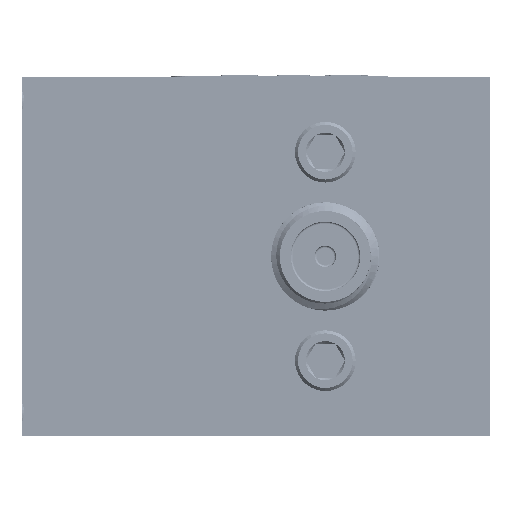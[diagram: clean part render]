
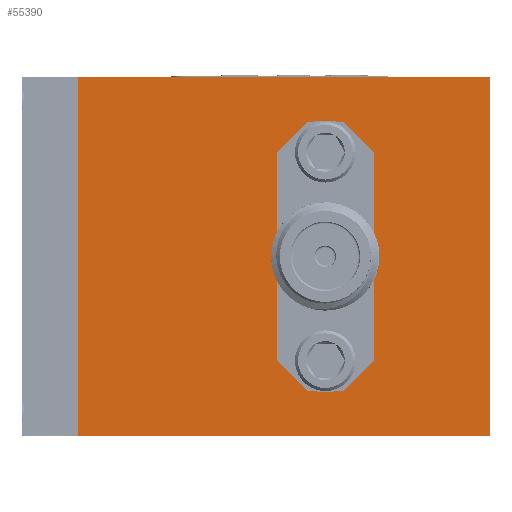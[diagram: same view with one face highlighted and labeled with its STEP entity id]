
A CAD part, left-side view. The second image highlights one B-rep face of the part: STEP entity #55390.
In plain terms, the highlighted planar face has unit normal (-1, 0, 0).
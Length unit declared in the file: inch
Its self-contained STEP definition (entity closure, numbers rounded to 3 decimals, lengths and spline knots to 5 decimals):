
#91 = VERTEX_POINT ( 'NONE', #34636 ) ;
#3012 = VERTEX_POINT ( 'NONE', #28654 ) ;
#3623 = ORIENTED_EDGE ( 'NONE', *, *, #4126, .F. ) ;
#4126 = EDGE_CURVE ( 'NONE', #91, #63411, #23038, .T. ) ;
#5265 = CARTESIAN_POINT ( 'NONE',  ( -1.33, 0., 0.415 ) ) ;
#5842 = DIRECTION ( 'NONE',  ( 0., 0., 1. ) ) ;
#6759 = DIRECTION ( 'NONE',  ( -1., 0., 0. ) ) ;
#7283 = VERTEX_POINT ( 'NONE', #50108 ) ;
#7615 = LINE ( 'NONE', #52917, #57972 ) ;
#9871 = ORIENTED_EDGE ( 'NONE', *, *, #49077, .F. ) ;
#11214 = EDGE_CURVE ( 'NONE', #86619, #49815, #48194, .T. ) ;
#11885 = CARTESIAN_POINT ( 'NONE',  ( -1.33, 0.38, -0.2405 ) ) ;
#12300 = CARTESIAN_POINT ( 'NONE',  ( -1.33, 0., -0.415 ) ) ;
#12674 = DIRECTION ( 'NONE',  ( 1., 0., 0. ) ) ;
#12706 = DIRECTION ( 'NONE',  ( -1., 0., 0. ) ) ;
#14330 = VERTEX_POINT ( 'NONE', #38651 ) ;
#14482 = CARTESIAN_POINT ( 'NONE',  ( -1.33, 0.95, 0.415 ) ) ;
#15213 = EDGE_CURVE ( 'NONE', #14330, #3012, #19303, .T. ) ;
#15796 = CIRCLE ( 'NONE', #37570, 0.035 ) ;
#16166 = VERTEX_POINT ( 'NONE', #51737 ) ;
#17982 = AXIS2_PLACEMENT_3D ( 'NONE', #80821, #6759, #72563 ) ;
#18474 = DIRECTION ( 'NONE',  ( 0., 0., 1. ) ) ;
#19303 = CIRCLE ( 'NONE', #76721, 0.085 ) ;
#20076 = EDGE_CURVE ( 'NONE', #16166, #65373, #37398, .T. ) ;
#23038 = CIRCLE ( 'NONE', #64856, 0.035 ) ;
#25810 = ORIENTED_EDGE ( 'NONE', *, *, #92324, .T. ) ;
#26307 = CIRCLE ( 'NONE', #51213, 0.035 ) ;
#28654 = CARTESIAN_POINT ( 'NONE',  ( -1.33, 0.38, 0.085 ) ) ;
#29306 = EDGE_CURVE ( 'NONE', #65373, #16166, #26307, .T. ) ;
#29644 = CARTESIAN_POINT ( 'NONE',  ( -1.33, 0.95, -0.415 ) ) ;
#31918 = CIRCLE ( 'NONE', #17982, 0.085 ) ;
#32973 = EDGE_LOOP ( 'NONE', ( #45007, #86147 ) ) ;
#33459 = VECTOR ( 'NONE', #18474, 39.37008 ) ;
#33556 = FACE_BOUND ( 'NONE', #66567, .T. ) ;
#33977 = CARTESIAN_POINT ( 'NONE',  ( -1.33, 0.95, -0.415 ) ) ;
#34636 = CARTESIAN_POINT ( 'NONE',  ( -1.33, 0.38, -0.2055 ) ) ;
#35781 = EDGE_CURVE ( 'NONE', #86619, #7283, #58932, .T. ) ;
#37398 = CIRCLE ( 'NONE', #48320, 0.035 ) ;
#37570 = AXIS2_PLACEMENT_3D ( 'NONE', #50937, #81152, #94292 ) ;
#38651 = CARTESIAN_POINT ( 'NONE',  ( -1.33, 0.38, -0.085 ) ) ;
#41373 = CARTESIAN_POINT ( 'NONE',  ( -1.33, 0.38, 0.2405 ) ) ;
#41956 = DIRECTION ( 'NONE',  ( 0., 0., 1. ) ) ;
#42822 = ORIENTED_EDGE ( 'NONE', *, *, #11214, .F. ) ;
#43075 = ORIENTED_EDGE ( 'NONE', *, *, #35781, .T. ) ;
#45007 = ORIENTED_EDGE ( 'NONE', *, *, #62528, .F. ) ;
#48194 = LINE ( 'NONE', #33977, #33459 ) ;
#48230 = CARTESIAN_POINT ( 'NONE',  ( -1.33, 0.95, -0.415 ) ) ;
#48320 = AXIS2_PLACEMENT_3D ( 'NONE', #41373, #63844, #93013 ) ;
#49077 = EDGE_CURVE ( 'NONE', #49815, #49701, #7615, .T. ) ;
#49301 = LINE ( 'NONE', #12300, #94073 ) ;
#49361 = DIRECTION ( 'NONE',  ( -1., 0., 0. ) ) ;
#49658 = FACE_OUTER_BOUND ( 'NONE', #94390, .T. ) ;
#49701 = VERTEX_POINT ( 'NONE', #5265 ) ;
#49815 = VERTEX_POINT ( 'NONE', #14482 ) ;
#49858 = ORIENTED_EDGE ( 'NONE', *, *, #20076, .F. ) ;
#50108 = CARTESIAN_POINT ( 'NONE',  ( -1.33, 0., -0.415 ) ) ;
#50937 = CARTESIAN_POINT ( 'NONE',  ( -1.33, 0.38, -0.2405 ) ) ;
#51213 = AXIS2_PLACEMENT_3D ( 'NONE', #83800, #76574, #69257 ) ;
#51737 = CARTESIAN_POINT ( 'NONE',  ( -1.33, 0.38, 0.2755 ) ) ;
#52917 = CARTESIAN_POINT ( 'NONE',  ( -1.33, 0.95, 0.415 ) ) ;
#53091 = AXIS2_PLACEMENT_3D ( 'NONE', #48230, #12674, #56492 ) ;
#55030 = PLANE ( 'NONE',  #53091 ) ;
#55390 = ADVANCED_FACE ( 'NONE', ( #62848, #92542, #33556, #49658 ), #55030, .F. ) ;
#56492 = DIRECTION ( 'NONE',  ( 0., 0., -1. ) ) ;
#57972 = VECTOR ( 'NONE', #82650, 39.37008 ) ;
#58932 = LINE ( 'NONE', #29644, #85589 ) ;
#60575 = ORIENTED_EDGE ( 'NONE', *, *, #79043, .F. ) ;
#60722 = ORIENTED_EDGE ( 'NONE', *, *, #29306, .F. ) ;
#62528 = EDGE_CURVE ( 'NONE', #3012, #14330, #31918, .T. ) ;
#62848 = FACE_BOUND ( 'NONE', #32973, .T. ) ;
#63411 = VERTEX_POINT ( 'NONE', #95154 ) ;
#63844 = DIRECTION ( 'NONE',  ( -1., 0., 0. ) ) ;
#64856 = AXIS2_PLACEMENT_3D ( 'NONE', #11885, #49361, #93172 ) ;
#65373 = VERTEX_POINT ( 'NONE', #93046 ) ;
#66567 = EDGE_LOOP ( 'NONE', ( #49858, #60722 ) ) ;
#66854 = EDGE_LOOP ( 'NONE', ( #3623, #60575 ) ) ;
#69257 = DIRECTION ( 'NONE',  ( 0., 0., 1. ) ) ;
#69268 = CARTESIAN_POINT ( 'NONE',  ( -1.33, 0.95, -0.415 ) ) ;
#72563 = DIRECTION ( 'NONE',  ( 0., 0., 1. ) ) ;
#76574 = DIRECTION ( 'NONE',  ( -1., 0., 0. ) ) ;
#76721 = AXIS2_PLACEMENT_3D ( 'NONE', #87653, #12706, #5842 ) ;
#79043 = EDGE_CURVE ( 'NONE', #63411, #91, #15796, .T. ) ;
#80821 = CARTESIAN_POINT ( 'NONE',  ( -1.33, 0.38, 0. ) ) ;
#81152 = DIRECTION ( 'NONE',  ( -1., 0., 0. ) ) ;
#82650 = DIRECTION ( 'NONE',  ( 0., -1., 0. ) ) ;
#83800 = CARTESIAN_POINT ( 'NONE',  ( -1.33, 0.38, 0.2405 ) ) ;
#85589 = VECTOR ( 'NONE', #89598, 39.37008 ) ;
#86147 = ORIENTED_EDGE ( 'NONE', *, *, #15213, .F. ) ;
#86619 = VERTEX_POINT ( 'NONE', #69268 ) ;
#87653 = CARTESIAN_POINT ( 'NONE',  ( -1.33, 0.38, 0. ) ) ;
#89598 = DIRECTION ( 'NONE',  ( 0., -1., 0. ) ) ;
#92324 = EDGE_CURVE ( 'NONE', #7283, #49701, #49301, .T. ) ;
#92542 = FACE_BOUND ( 'NONE', #66854, .T. ) ;
#93013 = DIRECTION ( 'NONE',  ( 0., 0., 1. ) ) ;
#93046 = CARTESIAN_POINT ( 'NONE',  ( -1.33, 0.38, 0.2055 ) ) ;
#93172 = DIRECTION ( 'NONE',  ( 0., 0., 1. ) ) ;
#94073 = VECTOR ( 'NONE', #41956, 39.37008 ) ;
#94292 = DIRECTION ( 'NONE',  ( 0., 0., 1. ) ) ;
#94390 = EDGE_LOOP ( 'NONE', ( #25810, #9871, #42822, #43075 ) ) ;
#95154 = CARTESIAN_POINT ( 'NONE',  ( -1.33, 0.38, -0.2755 ) ) ;
